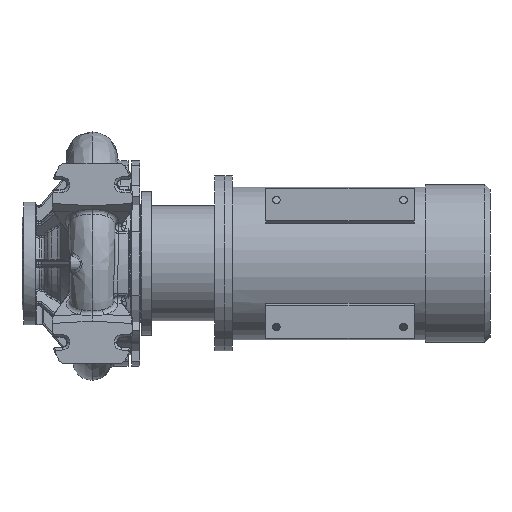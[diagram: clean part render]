
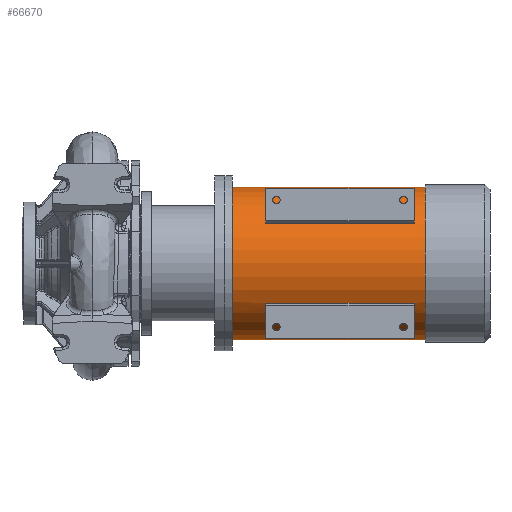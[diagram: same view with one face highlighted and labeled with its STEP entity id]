
A CAD part, front view. The second image highlights one B-rep face of the part: STEP entity #66670.
In plain terms, the highlighted cylindrical face has radius 152.5 mm (diameter 305 mm), a partial arc.
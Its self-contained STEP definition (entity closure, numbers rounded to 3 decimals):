
#1002 = EDGE_LOOP ( 'NONE', ( #55140, #23741, #88636, #94289 ) ) ;
#1879 = DIRECTION ( 'NONE',  ( 1., 0., 0. ) ) ;
#4614 = VECTOR ( 'NONE', #23578, 1000. ) ;
#5597 = CARTESIAN_POINT ( 'NONE',  ( 764.338, 411.618, -43.454 ) ) ;
#7543 = CIRCLE ( 'NONE', #63915, 152.5 ) ;
#7945 = LINE ( 'NONE', #70370, #61681 ) ;
#8934 = CARTESIAN_POINT ( 'NONE',  ( 444.838, 281.392, -122.811 ) ) ;
#9297 = CARTESIAN_POINT ( 'NONE',  ( 444.838, 411.618, -43.454 ) ) ;
#9650 = VECTOR ( 'NONE', #55324, 1000. ) ;
#10632 = VERTEX_POINT ( 'NONE', #62405 ) ;
#11204 = ORIENTED_EDGE ( 'NONE', *, *, #68982, .T. ) ;
#11645 = CARTESIAN_POINT ( 'NONE',  ( 378.338, 411.618, 109.046 ) ) ;
#12531 = ORIENTED_EDGE ( 'NONE', *, *, #78448, .T. ) ;
#12554 = EDGE_CURVE ( 'NONE', #31952, #81357, #42656, .T. ) ;
#14694 = AXIS2_PLACEMENT_3D ( 'NONE', #17481, #55130, #90904 ) ;
#14789 = CARTESIAN_POINT ( 'NONE',  ( 741.838, 281.392, -122.811 ) ) ;
#15713 = DIRECTION ( 'NONE',  ( 0., 0., -1. ) ) ;
#16404 = EDGE_LOOP ( 'NONE', ( #33735, #12531, #65272, #22090 ) ) ;
#16628 = CARTESIAN_POINT ( 'NONE',  ( 741.838, 411.618, -43.454 ) ) ;
#16701 = AXIS2_PLACEMENT_3D ( 'NONE', #24979, #76049, #68112 ) ;
#17481 = CARTESIAN_POINT ( 'NONE',  ( 893.338, 411.618, -43.454 ) ) ;
#17513 = EDGE_CURVE ( 'NONE', #17967, #74657, #82340, .T. ) ;
#17967 = VERTEX_POINT ( 'NONE', #8934 ) ;
#18896 = DIRECTION ( 'NONE',  ( -1., 0., 0. ) ) ;
#19209 = CARTESIAN_POINT ( 'NONE',  ( 893.338, 281.392, -122.811 ) ) ;
#22090 = ORIENTED_EDGE ( 'NONE', *, *, #44250, .T. ) ;
#23459 = CIRCLE ( 'NONE', #80009, 152.5 ) ;
#23578 = DIRECTION ( 'NONE',  ( 1., 0., 0. ) ) ;
#23741 = ORIENTED_EDGE ( 'NONE', *, *, #64056, .T. ) ;
#24979 = CARTESIAN_POINT ( 'NONE',  ( 741.838, 411.618, -43.454 ) ) ;
#25963 = EDGE_LOOP ( 'NONE', ( #91360, #11204, #87584, #87659 ) ) ;
#26903 = AXIS2_PLACEMENT_3D ( 'NONE', #9297, #53069, #15713 ) ;
#28740 = LINE ( 'NONE', #51686, #4614 ) ;
#29303 = EDGE_CURVE ( 'NONE', #10632, #62686, #90740, .T. ) ;
#29512 = VERTEX_POINT ( 'NONE', #11645 ) ;
#31952 = VERTEX_POINT ( 'NONE', #52809 ) ;
#32754 = DIRECTION ( 'NONE',  ( 1., 0., 0. ) ) ;
#33735 = ORIENTED_EDGE ( 'NONE', *, *, #29303, .F. ) ;
#35436 = VERTEX_POINT ( 'NONE', #47395 ) ;
#36675 = CARTESIAN_POINT ( 'NONE',  ( 741.838, 288.049, 45.915 ) ) ;
#36885 = CIRCLE ( 'NONE', #57613, 152.5 ) ;
#39097 = CARTESIAN_POINT ( 'NONE',  ( 741.838, 288.049, -132.824 ) ) ;
#40363 = DIRECTION ( 'NONE',  ( 1., 0., 0. ) ) ;
#41277 = AXIS2_PLACEMENT_3D ( 'NONE', #76724, #40363, #91388 ) ;
#41572 = FACE_OUTER_BOUND ( 'NONE', #1002, .T. ) ;
#42656 = CIRCLE ( 'NONE', #26903, 152.5 ) ;
#44250 = EDGE_CURVE ( 'NONE', #81357, #62686, #28740, .T. ) ;
#44498 = CARTESIAN_POINT ( 'NONE',  ( 764.338, 411.618, 109.046 ) ) ;
#46161 = EDGE_CURVE ( 'NONE', #77356, #35436, #7945, .T. ) ;
#47395 = CARTESIAN_POINT ( 'NONE',  ( 764.338, 411.618, -195.954 ) ) ;
#48543 = LINE ( 'NONE', #92360, #9650 ) ;
#49075 = CARTESIAN_POINT ( 'NONE',  ( 893.338, 281.392, 35.902 ) ) ;
#50842 = LINE ( 'NONE', #49075, #89649 ) ;
#51686 = CARTESIAN_POINT ( 'NONE',  ( 893.338, 288.049, 45.915 ) ) ;
#51860 = FACE_BOUND ( 'NONE', #16404, .T. ) ;
#52809 = CARTESIAN_POINT ( 'NONE',  ( 444.838, 281.392, 35.902 ) ) ;
#53069 = DIRECTION ( 'NONE',  ( -1., 0., 0. ) ) ;
#53692 = DIRECTION ( 'NONE',  ( 1., 0., 0. ) ) ;
#53879 = EDGE_CURVE ( 'NONE', #69986, #17967, #70419, .T. ) ;
#55130 = DIRECTION ( 'NONE',  ( 1., 0., 0. ) ) ;
#55140 = ORIENTED_EDGE ( 'NONE', *, *, #57760, .F. ) ;
#55324 = DIRECTION ( 'NONE',  ( 1., 0., 0. ) ) ;
#56724 = DIRECTION ( 'NONE',  ( 0., 0., -1. ) ) ;
#57613 = AXIS2_PLACEMENT_3D ( 'NONE', #16628, #1879, #89097 ) ;
#57760 = EDGE_CURVE ( 'NONE', #29512, #66905, #48543, .T. ) ;
#61361 = VECTOR ( 'NONE', #18896, 1000. ) ;
#61681 = VECTOR ( 'NONE', #32754, 1000. ) ;
#62405 = CARTESIAN_POINT ( 'NONE',  ( 741.838, 281.392, 35.902 ) ) ;
#62686 = VERTEX_POINT ( 'NONE', #36675 ) ;
#63915 = AXIS2_PLACEMENT_3D ( 'NONE', #5597, #78780, #56724 ) ;
#64056 = EDGE_CURVE ( 'NONE', #29512, #77356, #23459, .T. ) ;
#65272 = ORIENTED_EDGE ( 'NONE', *, *, #12554, .T. ) ;
#66670 = ADVANCED_FACE ( 'NONE', ( #41572, #51860, #82728 ), #79223, .T. ) ;
#66905 = VERTEX_POINT ( 'NONE', #44498 ) ;
#66921 = CARTESIAN_POINT ( 'NONE',  ( 444.838, 288.049, 45.915 ) ) ;
#67786 = DIRECTION ( 'NONE',  ( 0., 0., -1. ) ) ;
#68112 = DIRECTION ( 'NONE',  ( 0., 0., -1. ) ) ;
#68982 = EDGE_CURVE ( 'NONE', #69986, #87602, #36885, .T. ) ;
#69583 = LINE ( 'NONE', #92429, #91259 ) ;
#69986 = VERTEX_POINT ( 'NONE', #14789 ) ;
#70370 = CARTESIAN_POINT ( 'NONE',  ( 893.338, 411.618, -195.954 ) ) ;
#70419 = LINE ( 'NONE', #19209, #61361 ) ;
#70735 = DIRECTION ( 'NONE',  ( 1., 0., 0. ) ) ;
#73438 = EDGE_CURVE ( 'NONE', #66905, #35436, #7543, .T. ) ;
#74657 = VERTEX_POINT ( 'NONE', #82052 ) ;
#76049 = DIRECTION ( 'NONE',  ( -1., 0., 0. ) ) ;
#76724 = CARTESIAN_POINT ( 'NONE',  ( 444.838, 411.618, -43.454 ) ) ;
#77356 = VERTEX_POINT ( 'NONE', #84842 ) ;
#78448 = EDGE_CURVE ( 'NONE', #10632, #31952, #50842, .T. ) ;
#78780 = DIRECTION ( 'NONE',  ( 1., 0., 0. ) ) ;
#79223 = CYLINDRICAL_SURFACE ( 'NONE', #14694, 152.5 ) ;
#80009 = AXIS2_PLACEMENT_3D ( 'NONE', #90408, #53692, #67786 ) ;
#81357 = VERTEX_POINT ( 'NONE', #66921 ) ;
#82052 = CARTESIAN_POINT ( 'NONE',  ( 444.838, 288.049, -132.824 ) ) ;
#82340 = CIRCLE ( 'NONE', #41277, 152.5 ) ;
#82728 = FACE_BOUND ( 'NONE', #25963, .T. ) ;
#84842 = CARTESIAN_POINT ( 'NONE',  ( 378.338, 411.618, -195.954 ) ) ;
#85132 = DIRECTION ( 'NONE',  ( -1., 0., 0. ) ) ;
#87584 = ORIENTED_EDGE ( 'NONE', *, *, #94868, .F. ) ;
#87602 = VERTEX_POINT ( 'NONE', #39097 ) ;
#87659 = ORIENTED_EDGE ( 'NONE', *, *, #17513, .F. ) ;
#88636 = ORIENTED_EDGE ( 'NONE', *, *, #46161, .T. ) ;
#89097 = DIRECTION ( 'NONE',  ( 0., 0., 1. ) ) ;
#89649 = VECTOR ( 'NONE', #85132, 1000. ) ;
#90408 = CARTESIAN_POINT ( 'NONE',  ( 378.338, 411.618, -43.454 ) ) ;
#90740 = CIRCLE ( 'NONE', #16701, 152.5 ) ;
#90904 = DIRECTION ( 'NONE',  ( 0., 0., -1. ) ) ;
#91259 = VECTOR ( 'NONE', #70735, 1000. ) ;
#91360 = ORIENTED_EDGE ( 'NONE', *, *, #53879, .F. ) ;
#91388 = DIRECTION ( 'NONE',  ( 0., 0., 1. ) ) ;
#92360 = CARTESIAN_POINT ( 'NONE',  ( 893.338, 411.618, 109.046 ) ) ;
#92429 = CARTESIAN_POINT ( 'NONE',  ( 893.338, 288.049, -132.824 ) ) ;
#94289 = ORIENTED_EDGE ( 'NONE', *, *, #73438, .F. ) ;
#94868 = EDGE_CURVE ( 'NONE', #74657, #87602, #69583, .T. ) ;
